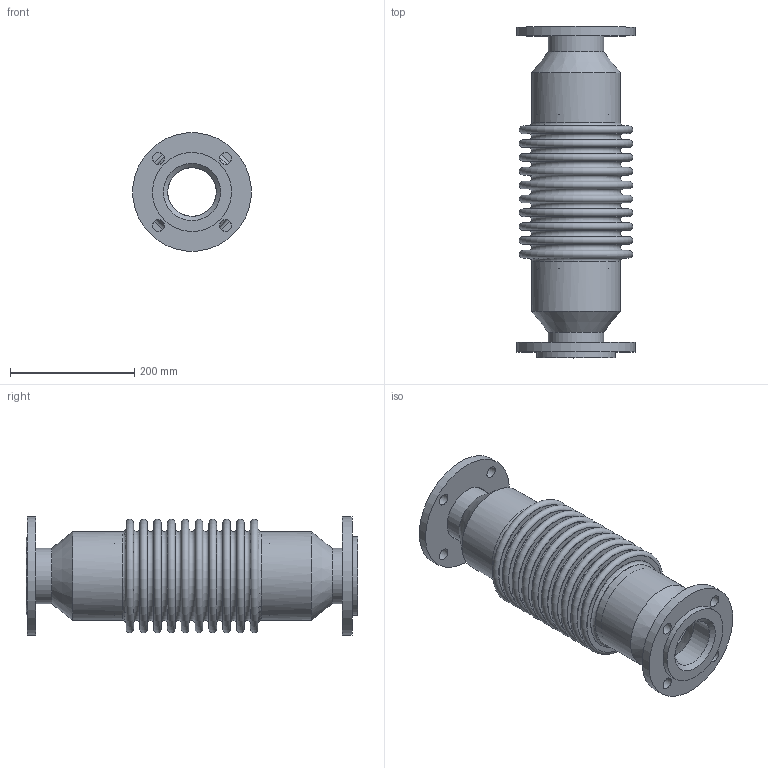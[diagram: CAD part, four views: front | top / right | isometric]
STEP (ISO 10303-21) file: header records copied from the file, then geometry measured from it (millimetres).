
FILE_DESCRIPTION(/* description */ (''),/* implementation_level */ '2;1');
FILE_NAME(/* name */ 'C:\001_Work\Designs\EFL250-ASA150LB\EFL250-3x21(ASA150LB).stp',/* time_stamp */ '2016-05-15T21:13:18-04:00',/* author */ ('rramoutar'),/* organization */ ('Mason Industries Inc.'),/* preprocessor_version */ 'ST-DEVELOPER v15.6',/* originating_system */ 'Autodesk Inventor 2015',/* authorisation */ '');
FILE_SCHEMA (('CONFIG_CONTROL_DESIGN'));
Length unit declared in the file: inch
Products named in the file (1): EFL250-3x21-ASA150LB
Bounding box: 189.78 x 533.4 x 189.78 mm (x, y, z)
Volume: 1529120.4 mm3; surface area: 901660.2 mm2
Topology: 1 solids, 1 shells, 125 faces, 223 edges, 149 vertices
Faces by surface type: plane 51, torus 42, cylinder 24, cone 8
Full cylindrical faces by diameter (mm): 19.05 x8, 77.927 x2, 88.9 x2, 92.075 x3, 127 x1, 131.902 x2, 140.843 x2, 142.875 x2, 190.5 x2
Entity records: 2785 total; most frequent: DIRECTION 518, CARTESIAN_POINT 392, EDGE_LOOP 266, ORIENTED_EDGE 266, AXIS2_PLACEMENT_3D 259, FACE_BOUND 141, CIRCLE 133, VERTEX_POINT 133
